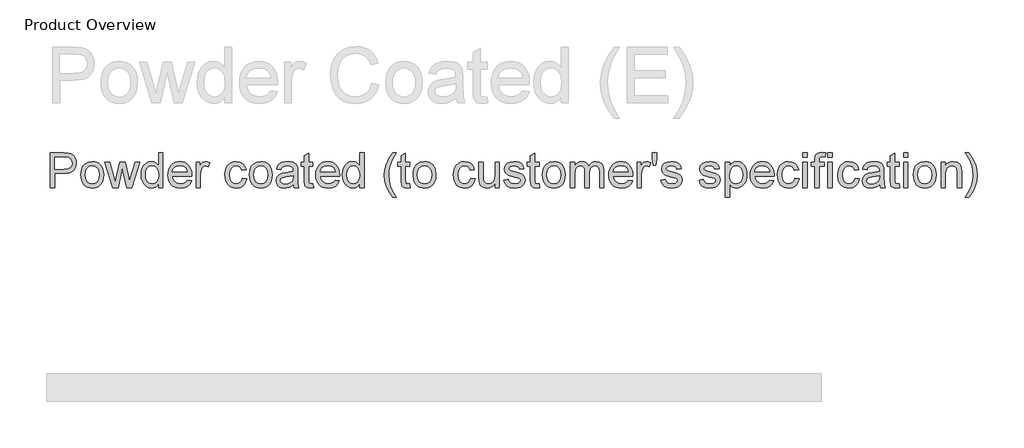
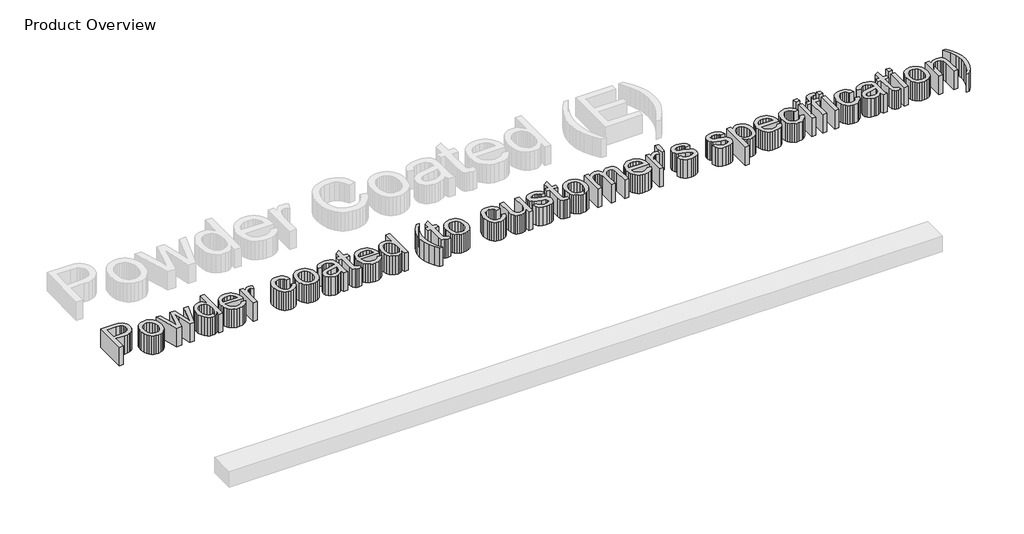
# One storey, part 4 of 11: 1 proxy.
"""IFC4 building model written with IfcOpenShell, lengths in millimetres."""

from ifc_helpers import new_model, si_unit, origin, origin_with_axes, place, context, project, spatial, polyline, outline, extrude, element, save

model = new_model("IFC4")

# Units and contexts
model_context = context("Model", 3, world=origin())
ifc_project = project(units=[si_unit("LENGTHUNIT", "METRE", prefix="MILLI")], contexts=[model_context])

# Site, building, storey
site = spatial("IfcSite", under=ifc_project)
building = spatial("IfcBuilding", under=site)
storey = spatial("IfcBuildingStorey", under=building, Name="Product Overview", Elevation=0.0)

# Proxy
placement = place(None, origin())
element("IfcBuildingElementProxy", 1, Name="250.0", ObjectType="250.0", at=placement, inside=storey, context=model_context, shape_type="SweptSolid", body=[
    extrude(outline(polyline([(-4409.7471727, -17893.8362158), (-4409.7471727, -17647.6823697), (-4318.5212111, -17647.6823697), (-4281.742365, -17650.0261197), (-4265.343627, -17654.4056269), (-4251.8445284, -17661.5345331), (-4240.9746366, -17671.7358552), (-4232.4635188, -17685.3326101), (-4226.9647207, -17701.3707711), (-4225.131788, -17718.896312), (-4230.0822087, -17747.9077302), (-4244.9334707, -17772.0814081), (-4256.8268752, -17781.5991365), (-4272.7054058, -17788.3975139), (-4292.5690627, -17792.4765403), (-4316.4178457, -17793.8362158), (-4378.9779419, -17793.8362158), (-4378.9779419, -17893.8362158), (-4409.7471727, -17893.8362158)]), holes=[polyline([(-4378.9779419, -17763.0669851), (-4314.6149611, -17763.0669851), (-4287.3313073, -17760.2424658), (-4269.3024611, -17751.7689081), (-4259.2513794, -17738.1721533), (-4255.9010188, -17719.9780427), (-4257.8766799, -17706.1559274), (-4263.803663, -17694.4972735), (-4272.9457904, -17685.7232351), (-4284.5668842, -17680.5549658), (-4315.336115, -17678.4516004), (-4378.9779419, -17678.4516004), (-4378.9779419, -17763.0669851)])]), origin_with_axes(), (0.0, 0.0, 1.0), 150.0),
    extrude(outline(polyline([(-4194.3625573, -17803.4516004), (-4192.698645, -17780.0403925), (-4187.7069082, -17759.8668649), (-4179.3873469, -17742.9310175), (-4167.7399611, -17729.2328504), (-4143.07049, -17714.223836), (-4113.5332303, -17709.2208312), (-4096.5579449, -17710.7438931), (-4081.2090116, -17715.3130788), (-4067.4864305, -17722.9283883), (-4055.3902015, -17733.5898216), (-4045.5175302, -17746.9368018), (-4038.4656222, -17762.6087519), (-4032.8240957, -17800.927562), (-4035.3180861, -17832.0122976), (-4042.8000573, -17855.6751581), (-4055.0521606, -17873.3960115), (-4071.8565477, -17886.6547254), (-4091.8159828, -17894.9254586), (-4113.5332303, -17897.6823697), (-4130.7564124, -17896.1649418), (-4146.2480741, -17891.6126581), (-4160.0082153, -17884.0255187), (-4172.0368361, -17873.4035235), (-4181.8043391, -17859.926961), (-4188.781127, -17843.7761197), (-4194.3625573, -17803.4516004)]), holes=[polyline([(-4163.5933265, -17803.3915043), (-4160.0326294, -17831.2385596), (-4149.350538, -17851.0778024), (-4133.2748169, -17862.9543048), (-4113.5332303, -17866.9131389), (-4093.881788, -17862.9317687), (-4077.836115, -17850.9876581), (-4067.1540236, -17830.8854947), (-4063.5933265, -17802.4299658), (-4067.1765597, -17775.3942086), (-4077.9262592, -17755.8253985), (-4093.9944683, -17743.9488961), (-4113.5332303, -17739.990062), (-4133.2748169, -17743.9338721), (-4149.350538, -17755.7653024), (-4160.0326294, -17775.559473), (-4163.5933265, -17803.3915043)])]), origin_with_axes(), (0.0, 0.0, 1.0), 150.0),
    extrude(outline(polyline([(-3968.2207303, -17893.8362158), (-4023.2087111, -17713.0669851), (-3991.2375573, -17713.0669851), (-3960.0476534, -17818.5357351), (-3950.7327496, -17856.2160235), (-3943.100538, -17819.9179466), (-3918.2808265, -17713.0669851), (-3881.6221727, -17713.0669851), (-3856.9226534, -17819.6174658), (-3850.131788, -17852.490062), (-3840.3962111, -17817.8145812), (-3809.1462111, -17713.0669851), (-3777.054865, -17713.0669851), (-3832.4635188, -17893.8362158), (-3869.663038, -17893.8362158), (-3893.2808265, -17787.8266004), (-3900.131788, -17754.7737158), (-3930.600538, -17893.8362158), (-3968.2207303, -17893.8362158)])), origin_with_axes(), (0.0, 0.0, 1.0), 150.0),
    extrude(outline(polyline([(-3644.3625573, -17893.8362158), (-3644.3625573, -17864.8097735), (-3653.5685368, -17879.1915343), (-3664.7201294, -17889.4642206), (-3677.8173349, -17895.6278324), (-3692.8601534, -17897.6823697), (-3712.7519803, -17894.7076101), (-3730.961115, -17885.7833312), (-3746.3757784, -17871.5330307), (-3757.8841919, -17852.5802062), (-3765.0506582, -17829.6910836), (-3767.4394803, -17803.6318889), (-3765.2384587, -17777.895711), (-3758.6353938, -17754.6535235), (-3747.6377977, -17735.2274418), (-3732.2531823, -17720.9395812), (-3713.6459106, -17712.1505187), (-3692.9803457, -17709.2208312), (-3677.9262592, -17711.3166846), (-3664.6149611, -17717.6042447), (-3653.3319082, -17727.2421653), (-3644.3625573, -17739.3891004), (-3644.3625573, -17647.6823697), (-3613.5933265, -17647.6823697), (-3613.5933265, -17893.8362158), (-3644.3625573, -17893.8362158)]), holes=[polyline([(-3736.6702496, -17803.5116966), (-3733.1996967, -17831.3437278), (-3722.788038, -17851.1378985), (-3707.6588313, -17862.9693288), (-3690.0356342, -17866.9131389), (-3672.4199491, -17863.1496173), (-3657.6738553, -17851.8590524), (-3647.6903818, -17832.8311077), (-3644.3625573, -17805.8554466), (-3647.7504779, -17776.3632591), (-3657.91424, -17755.9155427), (-3673.0359347, -17743.9714322), (-3691.2976534, -17739.990062), (-3709.101139, -17743.8136798), (-3723.6894803, -17755.2845331), (-3733.4250573, -17774.9885596), (-3736.6702496, -17803.5116966)])]), origin_with_axes(), (0.0, 0.0, 1.0), 150.0),
    extrude(outline(polyline([(-3440.8769803, -17839.990062), (-3410.7087111, -17843.8362158), (-3421.5786029, -17866.567586), (-3438.9238553, -17883.5597735), (-3462.3538433, -17894.1517206), (-3491.4779419, -17897.6823697), (-3510.5697388, -17896.1593078), (-3527.5807063, -17891.5901221), (-3542.5108445, -17883.9748126), (-3555.3601534, -17873.3133793), (-3565.6929359, -17859.902547), (-3573.0734948, -17844.0390403), (-3577.5018301, -17825.7228595), (-3578.9779419, -17804.9540043), (-3577.4868061, -17783.4808973), (-3573.0133986, -17764.5543649), (-3565.5577195, -17748.1744069), (-3555.1197688, -17734.3410235), (-3542.304264, -17723.3509394), (-3527.7159227, -17715.5008793), (-3511.3547448, -17710.7908432), (-3493.2207303, -17709.2208312), (-3475.6707754, -17710.7870872), (-3459.7997568, -17715.4858552), (-3445.6076745, -17723.3171353), (-3433.0945284, -17734.2809274), (-3422.8800603, -17748.0842627), (-3415.5840116, -17764.4341726), (-3411.2063824, -17783.3306569), (-3409.7471727, -17804.7737158), (-3409.9274611, -17813.0669851), (-3548.2087111, -17813.0669851), (-3542.8826895, -17836.098836), (-3530.5103938, -17853.0309274), (-3512.6543241, -17863.442586), (-3490.8769803, -17866.9131389), (-3474.5007784, -17865.3055668), (-3460.7087111, -17860.4828504), (-3449.5007784, -17852.1445091), (-3440.8769803, -17839.990062)]), holes=[polyline([(-3548.2087111, -17782.2977543), (-3440.5164034, -17782.2977543), (-3444.6780621, -17766.0417447), (-3452.836115, -17754.4131389), (-3470.7748169, -17743.5958312), (-3493.3409227, -17739.990062), (-3514.0816078, -17742.8671653), (-3531.2315477, -17751.4984754), (-3543.1531222, -17764.9525019), (-3548.2087111, -17782.2977543)])]), origin_with_axes(), (0.0, 0.0, 1.0), 150.0),
    extrude(outline(polyline([(-3378.9779419, -17893.8362158), (-3378.9779419, -17713.0669851), (-3352.054865, -17713.0669851), (-3352.054865, -17739.8097735), (-3342.1089515, -17724.3049658), (-3332.944288, -17715.1703504), (-3313.7135188, -17709.2208312), (-3298.3889996, -17711.5946293), (-3282.8240957, -17718.7160235), (-3293.100538, -17746.3001581), (-3314.7351534, -17739.990062), (-3323.9223529, -17741.5074899), (-3332.13299, -17746.0597735), (-3343.2207303, -17762.8866966), (-3348.2087111, -17798.8241966), (-3348.2087111, -17893.8362158), (-3378.9779419, -17893.8362158)])), origin_with_axes(), (0.0, 0.0, 1.0), 150.0),
    extrude(outline(polyline([(-3052.054865, -17828.4516004), (-3021.2856342, -17832.2977543), (-3029.8643602, -17859.6640403), (-3045.9851534, -17880.3446293), (-3068.1305861, -17893.3479346), (-3094.7832303, -17897.6823697), (-3112.0402165, -17896.1705758), (-3127.5130981, -17891.6351942), (-3141.2018752, -17884.0762248), (-3153.1065477, -17873.4936677), (-3162.7425903, -17860.0865914), (-3169.6254779, -17844.0540644), (-3175.131788, -17804.1126581), (-3172.780526, -17776.731348), (-3165.72674, -17753.0008793), (-3153.8577496, -17733.8377182), (-3137.0608746, -17720.1583312), (-3116.9662231, -17711.9552062), (-3095.2039034, -17709.2208312), (-3069.2048049, -17712.9768408), (-3048.4190477, -17724.2448697), (-3033.5076895, -17742.4239562), (-3025.131788, -17766.9131389), (-3055.9010188, -17770.7592927), (-3061.4824491, -17757.3353144), (-3070.1738553, -17747.7124177), (-3081.4944683, -17741.9206509), (-3094.9635188, -17739.990062), (-3114.8478337, -17743.7911437), (-3130.6305861, -17755.1943889), (-3140.9295645, -17774.8157831), (-3144.3625573, -17803.271312), (-3141.0046847, -17832.1099538), (-3130.9310669, -17851.7989562), (-3115.4337712, -17863.1345932), (-3095.804865, -17866.9131389), (-3079.8718722, -17864.5543649), (-3066.8084707, -17857.4780427), (-3057.3057664, -17845.5038841), (-3052.054865, -17828.4516004)])), origin_with_axes(), (0.0, 0.0, 1.0), 150.0),
    extrude(outline(polyline([(-3002.054865, -17803.4516004), (-3000.3909527, -17780.0403925), (-2995.3992159, -17759.8668649), (-2987.0796546, -17742.9310175), (-2975.4322688, -17729.2328504), (-2950.7627977, -17714.223836), (-2921.225538, -17709.2208312), (-2904.2502526, -17710.7438931), (-2888.9013193, -17715.3130788), (-2875.1787382, -17722.9283883), (-2863.0825092, -17733.5898216), (-2853.2098379, -17746.9368018), (-2846.1579299, -17762.6087519), (-2840.5164034, -17800.927562), (-2843.0103938, -17832.0122976), (-2850.492365, -17855.6751581), (-2862.7444683, -17873.3960115), (-2879.5488553, -17886.6547254), (-2899.5082904, -17894.9254586), (-2921.225538, -17897.6823697), (-2938.4487201, -17896.1649418), (-2953.9403818, -17891.6126581), (-2967.700523, -17884.0255187), (-2979.7291438, -17873.4035235), (-2989.4966468, -17859.926961), (-2996.4734347, -17843.7761197), (-3002.054865, -17803.4516004)]), holes=[polyline([(-2971.2856342, -17803.3915043), (-2967.7249371, -17831.2385596), (-2957.0428457, -17851.0778024), (-2940.9671246, -17862.9543048), (-2921.225538, -17866.9131389), (-2901.5740957, -17862.9317687), (-2885.5284227, -17850.9876581), (-2874.8463313, -17830.8854947), (-2871.2856342, -17802.4299658), (-2874.8688674, -17775.3942086), (-2885.6185669, -17755.8253985), (-2901.686776, -17743.9488961), (-2921.225538, -17739.990062), (-2940.9671246, -17743.9338721), (-2957.0428457, -17755.7653024), (-2967.7249371, -17775.559473), (-2971.2856342, -17803.3915043)])]), origin_with_axes(), (0.0, 0.0, 1.0), 150.0),
    extrude(outline(polyline([(-2690.5164034, -17870.7592927), (-2705.2174251, -17883.364461), (-2720.3541438, -17891.6126581), (-2736.2721126, -17896.1649418), (-2753.3168842, -17897.6823697), (-2779.030526, -17894.0315283), (-2797.9983746, -17883.0790043), (-2809.6945885, -17866.4473937), (-2813.5933265, -17845.7592927), (-2807.7039034, -17821.4203504), (-2792.2291438, -17803.7520812), (-2770.6846727, -17793.6559274), (-2744.0620765, -17789.0285235), (-2690.6966919, -17778.4516004), (-2690.5164034, -17771.6006389), (-2692.6347928, -17757.8686677), (-2698.9899611, -17748.8842927), (-2713.2027015, -17742.2136197), (-2733.0043842, -17739.990062), (-2751.3337111, -17741.4699298), (-2764.1341919, -17745.9095331), (-2772.8631582, -17754.1201702), (-2778.9779419, -17766.9131389), (-2809.7471727, -17763.0669851), (-2804.406127, -17746.240062), (-2796.4358746, -17733.0189081), (-2785.0927255, -17722.9077302), (-2769.63299, -17715.4107351), (-2750.7252376, -17710.7683072), (-2729.038038, -17709.2208312), (-2708.2372568, -17710.5880187), (-2691.7483746, -17714.6895812), (-2679.3159828, -17720.856949), (-2670.6846727, -17728.4215524), (-2661.2495765, -17749.3049658), (-2659.7471727, -17776.2280427), (-2659.7471727, -17814.5092927), (-2658.1846727, -17867.9648216), (-2652.054865, -17893.8362158), (-2682.8240957, -17893.8362158), (-2690.5164034, -17870.7592927)]), holes=[polyline([(-2690.5164034, -17809.2208312), (-2740.1558265, -17818.6559274), (-2766.6281823, -17823.6439081), (-2778.617365, -17831.7568889), (-2782.8240957, -17843.5958312), (-2780.5329299, -17852.7454706), (-2773.6594323, -17860.2424658), (-2762.3538433, -17865.2454706), (-2746.7664034, -17866.9131389), (-2730.2399611, -17865.0726942), (-2715.6365957, -17859.5513601), (-2703.7976534, -17851.4158432), (-2695.5644803, -17841.7328504), (-2690.6966919, -17817.9347735), (-2690.5164034, -17809.2208312)])]), origin_with_axes(), (0.0, 0.0, 1.0), 150.0),
    extrude(outline(polyline([(-2552.054865, -17868.1751581), (-2548.2087111, -17894.7376581), (-2571.225538, -17897.6823697), (-2585.9941678, -17896.4053264), (-2597.006788, -17892.5741966), (-2609.867365, -17879.1727543), (-2613.5933265, -17844.2568889), (-2613.5933265, -17743.8362158), (-2636.6702496, -17743.8362158), (-2636.6702496, -17713.0669851), (-2613.5933265, -17713.0669851), (-2613.5933265, -17669.1366966), (-2582.8240957, -17651.0477543), (-2582.8240957, -17713.0669851), (-2552.054865, -17713.0669851), (-2552.054865, -17743.8362158), (-2582.8240957, -17743.8362158), (-2582.8240957, -17843.3554466), (-2581.2014996, -17859.2208312), (-2575.9430861, -17864.8398216), (-2565.4563073, -17866.9131389), (-2552.054865, -17868.1751581)])), origin_with_axes(), (0.0, 0.0, 1.0), 150.0),
    extrude(outline(polyline([(-2394.7231342, -17839.990062), (-2364.554865, -17843.8362158), (-2375.4247568, -17866.567586), (-2392.7700092, -17883.5597735), (-2416.1999972, -17894.1517206), (-2445.3240957, -17897.6823697), (-2464.4158926, -17896.1593078), (-2481.4268602, -17891.5901221), (-2496.3569984, -17883.9748126), (-2509.2063073, -17873.3133793), (-2519.5390897, -17859.902547), (-2526.9196486, -17844.0390403), (-2531.347984, -17825.7228595), (-2532.8240957, -17804.9540043), (-2531.3329599, -17783.4808973), (-2526.8595525, -17764.5543649), (-2519.4038734, -17748.1744069), (-2508.9659227, -17734.3410235), (-2496.1504178, -17723.3509394), (-2481.5620765, -17715.5008793), (-2465.2008986, -17710.7908432), (-2447.0668842, -17709.2208312), (-2429.5169293, -17710.7870872), (-2413.6459106, -17715.4858552), (-2399.4538283, -17723.3171353), (-2386.9406823, -17734.2809274), (-2376.7262141, -17748.0842627), (-2369.4301654, -17764.4341726), (-2365.0525362, -17783.3306569), (-2363.5933265, -17804.7737158), (-2363.773615, -17813.0669851), (-2502.054865, -17813.0669851), (-2496.7288433, -17836.098836), (-2484.3565477, -17853.0309274), (-2466.5004779, -17863.442586), (-2444.7231342, -17866.9131389), (-2428.3469323, -17865.3055668), (-2414.554865, -17860.4828504), (-2403.3469323, -17852.1445091), (-2394.7231342, -17839.990062)]), holes=[polyline([(-2502.054865, -17782.2977543), (-2394.3625573, -17782.2977543), (-2398.5242159, -17766.0417447), (-2406.6822688, -17754.4131389), (-2424.6209707, -17743.5958312), (-2447.1870765, -17739.990062), (-2467.9277616, -17742.8671653), (-2485.0777015, -17751.4984754), (-2496.999276, -17764.9525019), (-2502.054865, -17782.2977543)])]), origin_with_axes(), (0.0, 0.0, 1.0), 150.0),
    extrude(outline(polyline([(-2221.2856342, -17893.8362158), (-2221.2856342, -17864.8097735), (-2230.4916138, -17879.1915343), (-2241.6432063, -17889.4642206), (-2254.7404118, -17895.6278324), (-2269.7832303, -17897.6823697), (-2289.6750573, -17894.7076101), (-2307.8841919, -17885.7833312), (-2323.2988553, -17871.5330307), (-2334.8072688, -17852.5802062), (-2341.9737352, -17829.6910836), (-2344.3625573, -17803.6318889), (-2342.1615356, -17777.895711), (-2335.5584707, -17754.6535235), (-2324.5608746, -17735.2274418), (-2309.1762592, -17720.9395812), (-2290.5689876, -17712.1505187), (-2269.9034227, -17709.2208312), (-2254.8493361, -17711.3166846), (-2241.538038, -17717.6042447), (-2230.2549852, -17727.2421653), (-2221.2856342, -17739.3891004), (-2221.2856342, -17647.6823697), (-2190.5164034, -17647.6823697), (-2190.5164034, -17893.8362158), (-2221.2856342, -17893.8362158)]), holes=[polyline([(-2313.5933265, -17803.5116966), (-2310.1227736, -17831.3437278), (-2299.711115, -17851.1378985), (-2284.5819082, -17862.9693288), (-2266.9587111, -17866.9131389), (-2249.343026, -17863.1496173), (-2234.5969323, -17851.8590524), (-2224.6134587, -17832.8311077), (-2221.2856342, -17805.8554466), (-2224.6735549, -17776.3632591), (-2234.8373169, -17755.9155427), (-2249.9590116, -17743.9714322), (-2268.2207303, -17739.990062), (-2286.0242159, -17743.8136798), (-2300.6125573, -17755.2845331), (-2310.3481342, -17774.9885596), (-2313.5933265, -17803.5116966)])]), origin_with_axes(), (0.0, 0.0, 1.0), 150.0),
    extrude(outline(polyline([(-1986.6702496, -17963.0669851), (-2010.5133986, -17929.6084514), (-2030.3601534, -17890.8915043), (-2043.7465717, -17848.7941485), (-2048.2087111, -17805.1943889), (-2044.8733746, -17766.958211), (-2034.867365, -17730.3746774), (-2015.0055861, -17688.9383793), (-1986.6702496, -17647.6823697), (-1963.5933265, -17647.6823697), (-1992.3793842, -17696.4203504), (-2009.6870765, -17743.6559274), (-2015.5013794, -17774.4401822), (-2017.4394803, -17805.3746774), (-2014.0740957, -17844.8202903), (-2003.9779419, -17884.2508793), (-1987.1510188, -17923.6664442), (-1963.5933265, -17963.0669851), (-1986.6702496, -17963.0669851)])), origin_with_axes(), (0.0, 0.0, 1.0), 150.0),
    extrude(outline(polyline([(-1867.4394803, -17868.1751581), (-1863.5933265, -17894.7376581), (-1886.6101534, -17897.6823697), (-1901.3787832, -17896.4053264), (-1912.3914034, -17892.5741966), (-1925.2519803, -17879.1727543), (-1928.9779419, -17844.2568889), (-1928.9779419, -17743.8362158), (-1952.054865, -17743.8362158), (-1952.054865, -17713.0669851), (-1928.9779419, -17713.0669851), (-1928.9779419, -17669.1366966), (-1898.2087111, -17651.0477543), (-1898.2087111, -17713.0669851), (-1867.4394803, -17713.0669851), (-1867.4394803, -17743.8362158), (-1898.2087111, -17743.8362158), (-1898.2087111, -17843.3554466), (-1896.586115, -17859.2208312), (-1891.3277015, -17864.8398216), (-1880.8409227, -17866.9131389), (-1867.4394803, -17868.1751581)])), origin_with_axes(), (0.0, 0.0, 1.0), 150.0),
    extrude(outline(polyline([(-1844.3625573, -17803.4516004), (-1842.698645, -17780.0403925), (-1837.7069082, -17759.8668649), (-1829.3873469, -17742.9310175), (-1817.7399611, -17729.2328504), (-1793.07049, -17714.223836), (-1763.5332303, -17709.2208312), (-1746.5579449, -17710.7438931), (-1731.2090116, -17715.3130788), (-1717.4864305, -17722.9283883), (-1705.3902015, -17733.5898216), (-1695.5175302, -17746.9368018), (-1688.4656222, -17762.6087519), (-1682.8240957, -17800.927562), (-1685.3180861, -17832.0122976), (-1692.8000573, -17855.6751581), (-1705.0521606, -17873.3960115), (-1721.8565477, -17886.6547254), (-1741.8159828, -17894.9254586), (-1763.5332303, -17897.6823697), (-1780.7564124, -17896.1649418), (-1796.2480741, -17891.6126581), (-1810.0082153, -17884.0255187), (-1822.0368361, -17873.4035235), (-1831.8043391, -17859.926961), (-1838.781127, -17843.7761197), (-1844.3625573, -17803.4516004)]), holes=[polyline([(-1813.5933265, -17803.3915043), (-1810.0326294, -17831.2385596), (-1799.350538, -17851.0778024), (-1783.2748169, -17862.9543048), (-1763.5332303, -17866.9131389), (-1743.881788, -17862.9317687), (-1727.836115, -17850.9876581), (-1717.1540236, -17830.8854947), (-1713.5933265, -17802.4299658), (-1717.1765597, -17775.3942086), (-1727.9262592, -17755.8253985), (-1743.9944683, -17743.9488961), (-1763.5332303, -17739.990062), (-1783.2748169, -17743.9338721), (-1799.350538, -17755.7653024), (-1810.0326294, -17775.559473), (-1813.5933265, -17803.3915043)])]), origin_with_axes(), (0.0, 0.0, 1.0), 150.0),
    extrude(outline(polyline([(-1436.6702496, -17828.4516004), (-1405.9010188, -17832.2977543), (-1414.4797448, -17859.6640403), (-1430.600538, -17880.3446293), (-1452.7459707, -17893.3479346), (-1479.398615, -17897.6823697), (-1496.6556011, -17896.1705758), (-1512.1284828, -17891.6351942), (-1525.8172598, -17884.0762248), (-1537.7219323, -17873.4936677), (-1547.3579749, -17860.0865914), (-1554.2408626, -17844.0540644), (-1559.7471727, -17804.1126581), (-1557.3959106, -17776.731348), (-1550.3421246, -17753.0008793), (-1538.4731342, -17733.8377182), (-1521.6762592, -17720.1583312), (-1501.5816078, -17711.9552062), (-1479.819288, -17709.2208312), (-1453.8201895, -17712.9768408), (-1433.0344323, -17724.2448697), (-1418.1230741, -17742.4239562), (-1409.7471727, -17766.9131389), (-1440.5164034, -17770.7592927), (-1446.0978337, -17757.3353144), (-1454.78924, -17747.7124177), (-1466.1098529, -17741.9206509), (-1479.5789034, -17739.990062), (-1499.4632183, -17743.7911437), (-1515.2459707, -17755.1943889), (-1525.5449491, -17774.8157831), (-1528.9779419, -17803.271312), (-1525.6200693, -17832.1099538), (-1515.5464515, -17851.7989562), (-1500.0491558, -17863.1345932), (-1480.4202496, -17866.9131389), (-1464.4872568, -17864.5543649), (-1451.4238553, -17857.4780427), (-1441.921151, -17845.5038841), (-1436.6702496, -17828.4516004)])), origin_with_axes(), (0.0, 0.0, 1.0), 150.0),
    extrude(outline(polyline([(-1263.5933265, -17893.8362158), (-1263.5933265, -17862.7665043), (-1274.726139, -17878.0421954), (-1287.6918842, -17888.9534033), (-1302.4905621, -17895.5001281), (-1319.1221727, -17897.6823697), (-1334.108651, -17896.1499177), (-1348.0584707, -17891.552562), (-1359.7621967, -17884.6415043), (-1368.0103938, -17876.1679466), (-1377.1750573, -17853.5116966), (-1378.9779419, -17824.9059274), (-1378.9779419, -17713.0669851), (-1348.2087111, -17713.0669851), (-1348.2087111, -17810.4227543), (-1346.3457303, -17841.7929466), (-1341.8610549, -17852.2571894), (-1334.1762592, -17860.2124177), (-1323.8021606, -17865.2379586), (-1311.2495765, -17866.9131389), (-1297.9758385, -17865.2003985), (-1285.5584707, -17860.0621774), (-1275.3195885, -17851.9717327), (-1268.5813073, -17841.4023216), (-1264.8403217, -17826.9266605), (-1263.5933265, -17807.1174658), (-1263.5933265, -17713.0669851), (-1232.8240957, -17713.0669851), (-1232.8240957, -17893.8362158), (-1263.5933265, -17893.8362158)])), origin_with_axes(), (0.0, 0.0, 1.0), 150.0),
    extrude(outline(polyline([(-1202.054865, -17839.990062), (-1171.2856342, -17836.1439081), (-1166.4328698, -17849.3049658), (-1157.0428457, -17858.9804466), (-1143.0554659, -17864.9299658), (-1124.4106342, -17866.9131389), (-1105.991163, -17865.0952302), (-1093.0404419, -17859.6415043), (-1085.3781823, -17851.7388601), (-1082.8240957, -17842.5741966), (-1085.3932063, -17834.7316485), (-1093.100538, -17828.7520812), (-1124.7712111, -17819.9780427), (-1171.1053457, -17804.9239562), (-1182.8316078, -17797.3593528), (-1191.3277015, -17787.3458312), (-1196.4884587, -17775.5219129), (-1198.2087111, -17762.5261197), (-1192.679865, -17739.599437), (-1177.5957303, -17722.0814081), (-1158.0344323, -17712.9768408), (-1131.5620765, -17709.2208312), (-1111.5350332, -17710.7307471), (-1094.1221727, -17715.2604947), (-1080.1197688, -17722.3668649), (-1070.3240957, -17731.6066485), (-1063.8337111, -17743.6634394), (-1059.7471727, -17759.2208312), (-1090.5164034, -17763.0669851), (-1094.4001174, -17753.3839923), (-1102.084913, -17746.0898216), (-1113.6459106, -17741.5150019), (-1129.1582303, -17739.990062), (-1146.8264996, -17741.4473937), (-1158.6053457, -17745.8193889), (-1165.2309467, -17752.1294851), (-1167.4394803, -17759.4011197), (-1163.773615, -17768.3554466), (-1152.2952496, -17775.146312), (-1125.7928457, -17781.6967927), (-1080.6305861, -17796.1799658), (-1068.7014996, -17803.1060476), (-1059.6570284, -17812.5862158), (-1053.9554058, -17824.6505187), (-1052.054865, -17839.3290043), (-1054.2859347, -17854.5032831), (-1060.9791438, -17868.7761197), (-1071.8790837, -17881.028223), (-1086.7303457, -17890.1403024), (-1104.6690477, -17895.7968528), (-1124.8313073, -17897.6823697), (-1155.8559467, -17894.0465524), (-1178.4971727, -17883.1391004), (-1193.6113553, -17865.0802062), (-1202.054865, -17839.990062)])), origin_with_axes(), (0.0, 0.0, 1.0), 150.0),
    extrude(outline(polyline([(-952.054865, -17868.1751581), (-948.2087111, -17894.7376581), (-971.225538, -17897.6823697), (-985.9941678, -17896.4053264), (-997.006788, -17892.5741966), (-1009.867365, -17879.1727543), (-1013.5933265, -17844.2568889), (-1013.5933265, -17743.8362158), (-1036.6702496, -17743.8362158), (-1036.6702496, -17713.0669851), (-1013.5933265, -17713.0669851), (-1013.5933265, -17669.1366966), (-982.8240957, -17651.0477543), (-982.8240957, -17713.0669851), (-952.054865, -17713.0669851), (-952.054865, -17743.8362158), (-982.8240957, -17743.8362158), (-982.8240957, -17843.3554466), (-981.2014996, -17859.2208312), (-975.9430861, -17864.8398216), (-965.4563073, -17866.9131389), (-952.054865, -17868.1751581)])), origin_with_axes(), (0.0, 0.0, 1.0), 150.0),
    extrude(outline(polyline([(-928.9779419, -17803.4516004), (-927.3140296, -17780.0403925), (-922.3222928, -17759.8668649), (-914.0027316, -17742.9310175), (-902.3553457, -17729.2328504), (-877.6858746, -17714.223836), (-848.148615, -17709.2208312), (-831.1733295, -17710.7438931), (-815.8243962, -17715.3130788), (-802.1018151, -17722.9283883), (-790.0055861, -17733.5898216), (-780.1329148, -17746.9368018), (-773.0810068, -17762.6087519), (-767.4394803, -17800.927562), (-769.9334707, -17832.0122976), (-777.4154419, -17855.6751581), (-789.6675453, -17873.3960115), (-806.4719323, -17886.6547254), (-826.4313674, -17894.9254586), (-848.148615, -17897.6823697), (-865.3717971, -17896.1649418), (-880.8634587, -17891.6126581), (-894.6235999, -17884.0255187), (-906.6522207, -17873.4035235), (-916.4197237, -17859.926961), (-923.3965116, -17843.7761197), (-928.9779419, -17803.4516004)]), holes=[polyline([(-898.2087111, -17803.3915043), (-894.648014, -17831.2385596), (-883.9659227, -17851.0778024), (-867.8902015, -17862.9543048), (-848.148615, -17866.9131389), (-828.4971727, -17862.9317687), (-812.4514996, -17850.9876581), (-801.7694082, -17830.8854947), (-798.2087111, -17802.4299658), (-801.7919443, -17775.3942086), (-812.5416438, -17755.8253985), (-828.6098529, -17743.9488961), (-848.148615, -17739.990062), (-867.8902015, -17743.9338721), (-883.9659227, -17755.7653024), (-894.648014, -17775.559473), (-898.2087111, -17803.3915043)])]), origin_with_axes(), (0.0, 0.0, 1.0), 150.0),
    extrude(outline(polyline([(-732.8240957, -17893.8362158), (-732.8240957, -17713.0669851), (-702.054865, -17713.0669851), (-702.054865, -17742.8145812), (-692.8000573, -17729.1502182), (-680.9010188, -17718.4455908), (-666.7633986, -17711.5270211), (-650.7928457, -17709.2208312), (-633.6804659, -17711.5720932), (-619.9635188, -17718.6258793), (-609.7171246, -17729.9164442), (-603.0164034, -17744.9780427), (-591.8009587, -17729.3342627), (-579.00799, -17718.1601341), (-564.6374972, -17711.4556569), (-548.6894803, -17709.2208312), (-525.5599731, -17712.9392807), (-508.4551053, -17724.0946293), (-497.8856943, -17742.9873577), (-494.3625573, -17769.9179466), (-494.3625573, -17893.8362158), (-525.131788, -17893.8362158), (-525.131788, -17783.1391004), (-527.9863553, -17757.4479947), (-538.3228938, -17744.7977543), (-555.9010188, -17739.990062), (-572.5701895, -17743.0699899), (-586.1594323, -17752.3097735), (-595.1963914, -17768.3404226), (-598.2087111, -17791.7929466), (-598.2087111, -17893.8362158), (-628.9779419, -17893.8362158), (-628.9779419, -17779.7136197), (-630.7582904, -17762.3157831), (-636.0993361, -17749.9059274), (-645.4968722, -17742.4690283), (-659.4466919, -17739.990062), (-671.3006582, -17741.6427062), (-682.2231342, -17746.6006389), (-691.2375573, -17754.7436677), (-697.367365, -17765.9516004), (-702.054865, -17802.6703504), (-702.054865, -17893.8362158), (-732.8240957, -17893.8362158)])), origin_with_axes(), (0.0, 0.0, 1.0), 150.0),
    extrude(outline(polyline([(-321.6462111, -17839.990062), (-291.4779419, -17843.8362158), (-302.3478337, -17866.567586), (-319.6930861, -17883.5597735), (-343.1230741, -17894.1517206), (-372.2471727, -17897.6823697), (-391.3389695, -17896.1593078), (-408.3499371, -17891.5901221), (-423.2800753, -17883.9748126), (-436.1293842, -17873.3133793), (-446.4621666, -17859.902547), (-453.8427255, -17844.0390403), (-458.2710609, -17825.7228595), (-459.7471727, -17804.9540043), (-458.2560368, -17783.4808973), (-453.7826294, -17764.5543649), (-446.3269503, -17748.1744069), (-435.8889996, -17734.3410235), (-423.0734948, -17723.3509394), (-408.4851534, -17715.5008793), (-392.1239755, -17710.7908432), (-373.9899611, -17709.2208312), (-356.4400062, -17710.7870872), (-340.5689876, -17715.4858552), (-326.3769052, -17723.3171353), (-313.8637592, -17734.2809274), (-303.649291, -17748.0842627), (-296.3532424, -17764.4341726), (-291.9756132, -17783.3306569), (-290.5164034, -17804.7737158), (-290.6966919, -17813.0669851), (-428.9779419, -17813.0669851), (-423.6519203, -17836.098836), (-411.2796246, -17853.0309274), (-393.4235549, -17863.442586), (-371.6462111, -17866.9131389), (-355.2700092, -17865.3055668), (-341.4779419, -17860.4828504), (-330.2700092, -17852.1445091), (-321.6462111, -17839.990062)]), holes=[polyline([(-428.9779419, -17782.2977543), (-321.2856342, -17782.2977543), (-325.4472928, -17766.0417447), (-333.6053457, -17754.4131389), (-351.5440477, -17743.5958312), (-374.1101534, -17739.990062), (-394.8508385, -17742.8671653), (-412.0007784, -17751.4984754), (-423.9223529, -17764.9525019), (-428.9779419, -17782.2977543)])]), origin_with_axes(), (0.0, 0.0, 1.0), 150.0),
    extrude(outline(polyline([(-259.7471727, -17893.8362158), (-259.7471727, -17713.0669851), (-232.8240957, -17713.0669851), (-232.8240957, -17739.8097735), (-222.8781823, -17724.3049658), (-213.7135188, -17715.1703504), (-194.4827496, -17709.2208312), (-179.1582303, -17711.5946293), (-163.5933265, -17718.7160235), (-173.8697688, -17746.3001581), (-195.5043842, -17739.990062), (-204.6915837, -17741.5074899), (-212.9022207, -17746.0597735), (-223.9899611, -17762.8866966), (-228.9779419, -17798.8241966), (-228.9779419, -17893.8362158), (-259.7471727, -17893.8362158)])), origin_with_axes(), (0.0, 0.0, 1.0), 150.0),
    extrude(outline(polyline([(-145.1438073, -17736.1439081), (-152.054865, -17689.4491966), (-152.054865, -17647.6823697), (-121.2856342, -17647.6823697), (-121.2856342, -17689.4491966), (-128.4971727, -17736.1439081), (-145.1438073, -17736.1439081)])), origin_with_axes(), (0.0, 0.0, 1.0), 150.0),
    extrude(outline(polyline([(-90.5164034, -17839.990062), (-59.7471727, -17836.1439081), (-54.8944082, -17849.3049658), (-45.5043842, -17858.9804466), (-31.5170044, -17864.9299658), (-12.8721727, -17866.9131389), (5.5472985, -17865.0952302), (18.4980197, -17859.6415043), (26.1602793, -17851.7388601), (28.7143658, -17842.5741966), (26.1452552, -17834.7316485), (18.4379235, -17828.7520812), (-13.2327496, -17819.9780427), (-59.5668842, -17804.9239562), (-71.2931462, -17797.3593528), (-79.78924, -17787.3458312), (-84.9499972, -17775.5219129), (-86.6702496, -17762.5261197), (-81.1414034, -17739.599437), (-66.0572688, -17722.0814081), (-46.4959707, -17712.9768408), (-20.023615, -17709.2208312), (0.0034283, -17710.7307471), (17.4162889, -17715.2604947), (31.4186927, -17722.3668649), (41.2143658, -17731.6066485), (47.7047504, -17743.6634394), (51.7912889, -17759.2208312), (21.0220581, -17763.0669851), (17.1383442, -17753.3839923), (9.4535485, -17746.0898216), (-2.1074491, -17741.5150019), (-17.6197688, -17739.990062), (-35.288038, -17741.4473937), (-47.0668842, -17745.8193889), (-53.6924852, -17752.1294851), (-55.9010188, -17759.4011197), (-52.2351534, -17768.3554466), (-40.756788, -17775.146312), (-14.2543842, -17781.6967927), (30.9078754, -17796.1799658), (42.836962, -17803.1060476), (51.8814331, -17812.5862158), (57.5830557, -17824.6505187), (59.4835966, -17839.3290043), (57.2525269, -17854.5032831), (50.5593177, -17868.7761197), (39.6593778, -17881.028223), (24.8081158, -17890.1403024), (6.8694139, -17895.7968528), (-13.2928457, -17897.6823697), (-44.3174852, -17894.0465524), (-66.9587111, -17883.1391004), (-82.0728938, -17865.0802062), (-90.5164034, -17839.990062)])), origin_with_axes(), (0.0, 0.0, 1.0), 150.0),
    extrude(outline(polyline([(178.7143658, -17839.990062), (209.4835966, -17836.1439081), (214.336361, -17849.3049658), (223.726385, -17858.9804466), (237.7137648, -17864.9299658), (256.3585966, -17866.9131389), (274.7780677, -17865.0952302), (287.7287889, -17859.6415043), (295.3910485, -17851.7388601), (297.945135, -17842.5741966), (295.3760245, -17834.7316485), (287.6686927, -17828.7520812), (255.9980197, -17819.9780427), (209.663885, -17804.9239562), (197.937623, -17797.3593528), (189.4415293, -17787.3458312), (184.2807721, -17775.5219129), (182.5605197, -17762.5261197), (188.0893658, -17739.599437), (203.1735004, -17722.0814081), (222.7347985, -17712.9768408), (249.2071543, -17709.2208312), (269.2341975, -17710.7307471), (286.6470581, -17715.2604947), (300.649462, -17722.3668649), (310.445135, -17731.6066485), (316.9355197, -17743.6634394), (321.0220581, -17759.2208312), (290.2528273, -17763.0669851), (286.3691134, -17753.3839923), (278.6843177, -17746.0898216), (267.1233201, -17741.5150019), (251.6110004, -17739.990062), (233.9427312, -17741.4473937), (222.163885, -17745.8193889), (215.5382841, -17752.1294851), (213.3297504, -17759.4011197), (216.9956158, -17768.3554466), (228.4739812, -17775.146312), (254.976385, -17781.6967927), (300.1386447, -17796.1799658), (312.0677312, -17803.1060476), (321.1122023, -17812.5862158), (326.8138249, -17824.6505187), (328.7143658, -17839.3290043), (326.4832961, -17854.5032831), (319.790087, -17868.7761197), (308.8901471, -17881.028223), (294.038885, -17890.1403024), (276.1001831, -17895.7968528), (255.9379235, -17897.6823697), (224.9132841, -17894.0465524), (202.2720581, -17883.1391004), (187.1578754, -17865.0802062), (178.7143658, -17839.990062)])), origin_with_axes(), (0.0, 0.0, 1.0), 150.0),
    extrude(outline(polyline([(363.3297504, -17963.0669851), (363.3297504, -17713.0669851), (394.0989812, -17713.0669851), (394.0989812, -17743.2352543), (404.1350389, -17728.3539442), (415.3730197, -17717.724437), (428.4739812, -17711.3467327), (444.0989812, -17709.2208312), (464.9072745, -17712.1955908), (483.101385, -17721.1198697), (497.915087, -17735.4528024), (508.5821543, -17754.6535235), (515.0274668, -17777.3247976), (517.1759043, -17802.0693889), (514.7495221, -17828.3839923), (507.4703754, -17851.9191485), (495.571337, -17871.4804466), (479.2852793, -17885.8734754), (460.3174307, -17894.7301461), (440.3730197, -17897.6823697), (426.2278874, -17895.7067086), (413.6001831, -17889.7797254), (394.0989812, -17869.7977543), (394.0989812, -17963.0669851), (363.3297504, -17963.0669851)]), holes=[polyline([(394.0989812, -17804.8939081), (397.4268057, -17832.4780427), (407.4102793, -17851.7689081), (422.141349, -17863.1270812), (439.711962, -17866.9131389), (457.5680317, -17862.9918649), (472.6747023, -17851.2280427), (482.9736807, -17831.2310476), (486.4066735, -17802.6102543), (483.0563129, -17775.1763601), (473.0052312, -17755.615062), (458.2966975, -17743.896312), (440.9739812, -17739.990062), (423.5836567, -17744.1442086), (408.3117216, -17756.6066485), (397.6521663, -17776.9867567), (394.0989812, -17804.8939081)])]), origin_with_axes(), (0.0, 0.0, 1.0), 150.0),
    extrude(outline(polyline([(678.3537889, -17839.990062), (708.5220581, -17843.8362158), (697.6521663, -17866.567586), (680.3069139, -17883.5597735), (656.8769259, -17894.1517206), (627.7528273, -17897.6823697), (608.6610305, -17896.1593078), (591.6500629, -17891.5901221), (576.7199247, -17883.9748126), (563.8706158, -17873.3133793), (553.5378334, -17859.902547), (546.1572745, -17844.0390403), (541.7289391, -17825.7228595), (540.2528273, -17804.9540043), (541.7439632, -17783.4808973), (546.2173706, -17764.5543649), (553.6730497, -17748.1744069), (564.1110004, -17734.3410235), (576.9265052, -17723.3509394), (591.5148466, -17715.5008793), (607.8760245, -17710.7908432), (626.0100389, -17709.2208312), (643.5599938, -17710.7870872), (659.4310124, -17715.4858552), (673.6230948, -17723.3171353), (686.1362408, -17734.2809274), (696.350709, -17748.0842627), (703.6467576, -17764.4341726), (708.0243868, -17783.3306569), (709.4835966, -17804.7737158), (709.3033081, -17813.0669851), (571.0220581, -17813.0669851), (576.3480797, -17836.098836), (588.7203754, -17853.0309274), (606.5764451, -17863.442586), (628.3537889, -17866.9131389), (644.7299908, -17865.3055668), (658.5220581, -17860.4828504), (669.7299908, -17852.1445091), (678.3537889, -17839.990062)]), holes=[polyline([(571.0220581, -17782.2977543), (678.7143658, -17782.2977543), (674.5527072, -17766.0417447), (666.3946543, -17754.4131389), (648.4559523, -17743.5958312), (625.8898466, -17739.990062), (605.1491615, -17742.8671653), (587.9992216, -17751.4984754), (576.0776471, -17764.9525019), (571.0220581, -17782.2977543)])]), origin_with_axes(), (0.0, 0.0, 1.0), 150.0),
    extrude(outline(polyline([(855.6374427, -17828.4516004), (886.4066735, -17832.2977543), (877.8279475, -17859.6640403), (861.7071543, -17880.3446293), (839.5617216, -17893.3479346), (812.9090773, -17897.6823697), (795.6520912, -17896.1705758), (780.1792096, -17891.6351942), (766.4904325, -17884.0762248), (754.58576, -17873.4936677), (744.9497174, -17860.0865914), (738.0668297, -17844.0540644), (732.5605197, -17804.1126581), (734.9117817, -17776.731348), (741.9655677, -17753.0008793), (753.8345581, -17733.8377182), (770.6314331, -17720.1583312), (790.7260846, -17711.9552062), (812.4884043, -17709.2208312), (838.4875028, -17712.9768408), (859.27326, -17724.2448697), (874.1846182, -17742.4239562), (882.5605197, -17766.9131389), (851.7912889, -17770.7592927), (846.2098586, -17757.3353144), (837.5184523, -17747.7124177), (826.1978394, -17741.9206509), (812.7287889, -17739.990062), (792.844474, -17743.7911437), (777.0617216, -17755.1943889), (766.7627432, -17774.8157831), (763.3297504, -17803.271312), (766.687623, -17832.1099538), (776.7612408, -17851.7989562), (792.2585365, -17863.1345932), (811.8874427, -17866.9131389), (827.8204355, -17864.5543649), (840.883837, -17857.4780427), (850.3865413, -17845.5038841), (855.6374427, -17828.4516004)])), origin_with_axes(), (0.0, 0.0, 1.0), 150.0),
    extrude(outline(polyline([(913.3297504, -17893.8362158), (913.3297504, -17713.0669851), (944.0989812, -17713.0669851), (944.0989812, -17893.8362158), (913.3297504, -17893.8362158)])), origin_with_axes(), (0.0, 0.0, 1.0), 150.0),
    extrude(outline(polyline([(913.3297504, -17678.4516004), (913.3297504, -17647.6823697), (944.0989812, -17647.6823697), (944.0989812, -17678.4516004), (913.3297504, -17678.4516004)])), origin_with_axes(), (0.0, 0.0, 1.0), 150.0),
    extrude(outline(polyline([(997.945135, -17893.8362158), (997.945135, -17743.8362158), (971.0220581, -17743.8362158), (971.0220581, -17713.0669851), (997.945135, -17713.0669851), (997.945135, -17694.8578504), (1001.1903273, -17669.1967927), (1007.3802312, -17658.9654226), (1016.9355197, -17650.8674658), (1030.3069139, -17645.5940283), (1047.945135, -17643.8362158), (1076.0100389, -17647.2016004), (1071.5028273, -17676.0477543), (1053.774462, -17674.6054466), (1042.078248, -17675.8824899), (1034.3934523, -17679.7136197), (1030.1341374, -17687.0303264), (1028.7143658, -17698.7641004), (1028.7143658, -17713.0669851), (1063.3297504, -17713.0669851), (1063.3297504, -17743.8362158), (1028.7143658, -17743.8362158), (1028.7143658, -17893.8362158), (997.945135, -17893.8362158)])), origin_with_axes(), (0.0, 0.0, 1.0), 150.0),
    extrude(outline(polyline([(1090.2528273, -17893.8362158), (1090.2528273, -17713.0669851), (1121.0220581, -17713.0669851), (1121.0220581, -17893.8362158), (1090.2528273, -17893.8362158)])), origin_with_axes(), (0.0, 0.0, 1.0), 150.0),
    extrude(outline(polyline([(1090.2528273, -17678.4516004), (1090.2528273, -17647.6823697), (1121.0220581, -17647.6823697), (1121.0220581, -17678.4516004), (1090.2528273, -17678.4516004)])), origin_with_axes(), (0.0, 0.0, 1.0), 150.0),
    extrude(outline(polyline([(1282.5605197, -17828.4516004), (1313.3297504, -17832.2977543), (1304.7510245, -17859.6640403), (1288.6302312, -17880.3446293), (1266.4847985, -17893.3479346), (1239.8321543, -17897.6823697), (1222.5751681, -17896.1705758), (1207.1022865, -17891.6351942), (1193.4135094, -17884.0762248), (1181.508837, -17873.4936677), (1171.8727943, -17860.0865914), (1164.9899067, -17844.0540644), (1159.4835966, -17804.1126581), (1161.8348586, -17776.731348), (1168.8886447, -17753.0008793), (1180.757635, -17733.8377182), (1197.55451, -17720.1583312), (1217.6491615, -17711.9552062), (1239.4114812, -17709.2208312), (1265.4105797, -17712.9768408), (1286.196337, -17724.2448697), (1301.1076951, -17742.4239562), (1309.4835966, -17766.9131389), (1278.7143658, -17770.7592927), (1273.1329355, -17757.3353144), (1264.4415293, -17747.7124177), (1253.1209163, -17741.9206509), (1239.6518658, -17739.990062), (1219.7675509, -17743.7911437), (1203.9847985, -17755.1943889), (1193.6858201, -17774.8157831), (1190.2528273, -17803.271312), (1193.6106999, -17832.1099538), (1203.6843177, -17851.7989562), (1219.1816134, -17863.1345932), (1238.8105197, -17866.9131389), (1254.7435124, -17864.5543649), (1267.8069139, -17857.4780427), (1277.3096182, -17845.5038841), (1282.5605197, -17828.4516004)])), origin_with_axes(), (0.0, 0.0, 1.0), 150.0),
    extrude(outline(polyline([(1455.6374427, -17870.7592927), (1440.9364211, -17883.364461), (1425.7997023, -17891.6126581), (1409.8817336, -17896.1649418), (1392.836962, -17897.6823697), (1367.1233201, -17894.0315283), (1348.1554716, -17883.0790043), (1336.4592576, -17866.4473937), (1332.5605197, -17845.7592927), (1338.4499427, -17821.4203504), (1353.9247023, -17803.7520812), (1375.4691735, -17793.6559274), (1402.0917697, -17789.0285235), (1455.4571543, -17778.4516004), (1455.6374427, -17771.6006389), (1453.5190533, -17757.8686677), (1447.163885, -17748.8842927), (1432.9511447, -17742.2136197), (1413.149462, -17739.990062), (1394.820135, -17741.4699298), (1382.0196543, -17745.9095331), (1373.2906879, -17754.1201702), (1367.1759043, -17766.9131389), (1336.4066735, -17763.0669851), (1341.7477192, -17746.240062), (1349.7179716, -17733.0189081), (1361.0611206, -17722.9077302), (1376.5208562, -17715.4107351), (1395.4286086, -17710.7683072), (1417.1158081, -17709.2208312), (1437.9165894, -17710.5880187), (1454.4054716, -17714.6895812), (1466.8378634, -17720.856949), (1475.4691735, -17728.4215524), (1484.9042697, -17749.3049658), (1486.4066735, -17776.2280427), (1486.4066735, -17814.5092927), (1487.9691735, -17867.9648216), (1494.0989812, -17893.8362158), (1463.3297504, -17893.8362158), (1455.6374427, -17870.7592927)]), holes=[polyline([(1455.6374427, -17809.2208312), (1405.9980197, -17818.6559274), (1379.5256639, -17823.6439081), (1367.5364812, -17831.7568889), (1363.3297504, -17843.5958312), (1365.6209163, -17852.7454706), (1372.4944139, -17860.2424658), (1383.8000028, -17865.2454706), (1399.3874427, -17866.9131389), (1415.913885, -17865.0726942), (1430.5172504, -17859.5513601), (1442.3561927, -17851.4158432), (1450.5893658, -17841.7328504), (1455.4571543, -17817.9347735), (1455.6374427, -17809.2208312)])]), origin_with_axes(), (0.0, 0.0, 1.0), 150.0),
    extrude(outline(polyline([(1594.0989812, -17868.1751581), (1597.945135, -17894.7376581), (1574.9283081, -17897.6823697), (1560.1596783, -17896.4053264), (1549.1470581, -17892.5741966), (1536.2864812, -17879.1727543), (1532.5605197, -17844.2568889), (1532.5605197, -17743.8362158), (1509.4835966, -17743.8362158), (1509.4835966, -17713.0669851), (1532.5605197, -17713.0669851), (1532.5605197, -17669.1366966), (1563.3297504, -17651.0477543), (1563.3297504, -17713.0669851), (1594.0989812, -17713.0669851), (1594.0989812, -17743.8362158), (1563.3297504, -17743.8362158), (1563.3297504, -17843.3554466), (1564.9523466, -17859.2208312), (1570.21076, -17864.8398216), (1580.6975389, -17866.9131389), (1594.0989812, -17868.1751581)])), origin_with_axes(), (0.0, 0.0, 1.0), 150.0),
    extrude(outline(polyline([(1624.868212, -17678.4516004), (1624.868212, -17647.6823697), (1655.6374427, -17647.6823697), (1655.6374427, -17678.4516004), (1624.868212, -17678.4516004)])), origin_with_axes(), (0.0, 0.0, 1.0), 150.0),
    extrude(outline(polyline([(1624.868212, -17893.8362158), (1624.868212, -17713.0669851), (1655.6374427, -17713.0669851), (1655.6374427, -17893.8362158), (1624.868212, -17893.8362158)])), origin_with_axes(), (0.0, 0.0, 1.0), 150.0),
    extrude(outline(polyline([(1694.0989812, -17803.4516004), (1695.7628934, -17780.0403925), (1700.7546302, -17759.8668649), (1709.0741915, -17742.9310175), (1720.7215773, -17729.2328504), (1745.3910485, -17714.223836), (1774.9283081, -17709.2208312), (1791.9035936, -17710.7438931), (1807.2525269, -17715.3130788), (1820.975108, -17722.9283883), (1833.071337, -17733.5898216), (1842.9440082, -17746.9368018), (1849.9959163, -17762.6087519), (1855.6374427, -17800.927562), (1853.1434523, -17832.0122976), (1845.6614812, -17855.6751581), (1833.4093778, -17873.3960115), (1816.6049908, -17886.6547254), (1796.6455557, -17894.9254586), (1774.9283081, -17897.6823697), (1757.705126, -17896.1649418), (1742.2134644, -17891.6126581), (1728.4533231, -17884.0255187), (1716.4247023, -17873.4035235), (1706.6571993, -17859.926961), (1699.6804115, -17843.7761197), (1694.0989812, -17803.4516004)]), holes=[polyline([(1724.868212, -17803.3915043), (1728.4289091, -17831.2385596), (1739.1110004, -17851.0778024), (1755.1867216, -17862.9543048), (1774.9283081, -17866.9131389), (1794.5797504, -17862.9317687), (1810.6254235, -17850.9876581), (1821.3075148, -17830.8854947), (1824.868212, -17802.4299658), (1821.2849788, -17775.3942086), (1810.5352793, -17755.8253985), (1794.4670701, -17743.9488961), (1774.9283081, -17739.990062), (1755.1867216, -17743.9338721), (1739.1110004, -17755.7653024), (1728.4289091, -17775.559473), (1724.868212, -17803.3915043)])]), origin_with_axes(), (0.0, 0.0, 1.0), 150.0),
    extrude(outline(polyline([(1890.2528273, -17893.8362158), (1890.2528273, -17713.0669851), (1921.0220581, -17713.0669851), (1921.0220581, -17738.3073697), (1931.7116615, -17725.5820091), (1944.5497023, -17716.4924658), (1959.5361807, -17711.0387399), (1976.6710966, -17709.2208312), (2005.727587, -17715.0802062), (2017.3111206, -17721.8560476), (2025.5593177, -17730.4648216), (2034.7840773, -17753.0910235), (2036.4066735, -17782.8386197), (2036.4066735, -17893.8362158), (2005.6374427, -17893.8362158), (2005.6374427, -17786.9852543), (2002.0917697, -17759.7616966), (1997.1864211, -17751.6562278), (1989.5617216, -17745.3686677), (1968.4379235, -17739.990062), (1950.4165894, -17743.0098937), (1935.05451, -17752.0693889), (1924.5301711, -17769.5723937), (1921.0220581, -17797.9227543), (1921.0220581, -17893.8362158), (1890.2528273, -17893.8362158)])), origin_with_axes(), (0.0, 0.0, 1.0), 150.0),
    extrude(outline(polyline([(2086.4066735, -17963.0669851), (2063.3297504, -17963.0669851), (2086.8874427, -17923.6664442), (2103.7143658, -17884.2508793), (2113.8105197, -17844.8202903), (2117.1759043, -17805.3746774), (2115.2378033, -17774.6655427), (2109.4235004, -17744.1967927), (2092.2960966, -17696.9011197), (2063.3297504, -17647.6823697), (2086.4066735, -17647.6823697), (2114.74201, -17688.9383793), (2134.6037889, -17730.3746774), (2144.6097985, -17766.958211), (2147.945135, -17805.1943889), (2143.4604596, -17848.7941485), (2130.0064331, -17890.8915043), (2110.1371422, -17929.6084514), (2086.4066735, -17963.0669851)])), origin_with_axes(), (0.0, 0.0, 1.0), 150.0),
])

save(model, "model.ifc")
